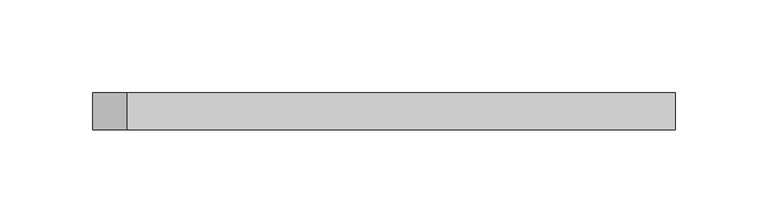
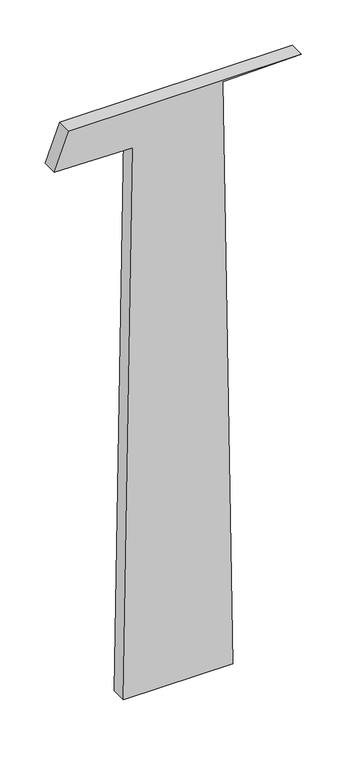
"""IFC4 building model written with IfcOpenShell, lengths in millimetres: plate geometry, 空系统嵌板 : 空."""

from ifc_helpers import new_model, si_unit, frame, origin, place, context, project, spatial, polyline, outline, extrude, source, transform, mapped, element, save


def plate_665b0e48(model_context):
    return source(origin(), model_context, "Body", "SweptSolid", [
        extrude(outline(polyline([(0.0, -69.3393671), (0.0, 70.2232177), (788.3546872, 57.212317), (790.0048492, 157.1987009), (789.7300302, -138.6688976), (741.2208997, -157.1987009), (739.5813783, -57.212142), (0.0, -69.3393671)])), frame((0.0, -10.0, 0.0), z_axis=(0.0, 1.0, 0.0), x_axis=(0.0, 0.0, 1.0)), (0.0, 0.0, 1.0), 20.0),
    ])


if __name__ == "__main__":
    model = new_model("IFC4")
    model_context = context("Model", 3, world=origin())
    ifc_project = project(units=[si_unit("LENGTHUNIT", "METRE", prefix="MILLI")], contexts=[model_context])
    site = spatial("IfcSite", under=ifc_project)
    building = spatial("IfcBuilding", under=site)
    placement = place(None, origin())
    plate_shape = plate_665b0e48(model_context)
    element("IfcPlate", 1, ObjectType="空系统嵌板 : 空", at=placement, inside=building, context=model_context, shape_type="MappedRepresentation", body=[
        mapped(plate_shape, transform((0.0, 0.0, 0.0), x_axis=(1.0, 0.0, 0.0), y_axis=(0.0, 1.0, 0.0), z_axis=(0.0, 0.0, 1.0))),
    ])
    save(model, "model.ifc")
